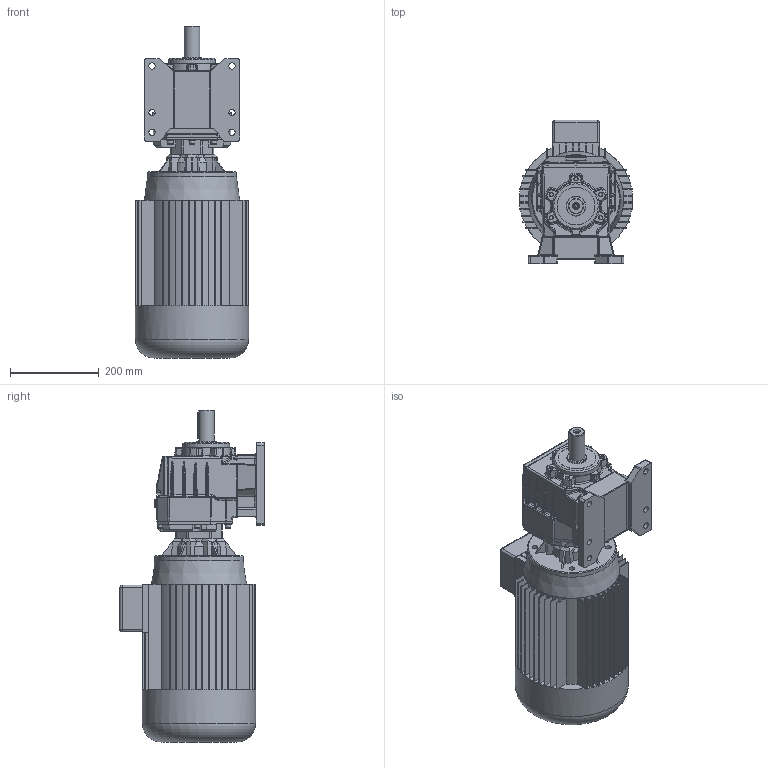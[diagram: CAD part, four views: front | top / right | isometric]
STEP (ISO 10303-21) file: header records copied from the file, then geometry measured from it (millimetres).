
FILE_DESCRIPTION( ( 'Unknown' ), '1' );
FILE_NAME( 'E:/services/configuratordownloads/customers/HYDROMEC/COASSIALI/download/1BB7762E62CD2EEAB3F81F84A4DDE718/STEP/1BB7762E62CD2EEAB3F81F84A4DDE718.3d.stp', 'Unknown', ( 'Unknown' ), ( 'Unknown' ), 'PSStep 10.1', 'Unknown', ' ' );
FILE_SCHEMA( ( 'AUTOMOTIVE_DESIGN { 1 0 10303 214 1 1 1 1 }' ) );
Length unit declared in the file: millimetre
Products named in the file (1): C618800
Bounding box: 254.95 x 324.35 x 747.4 mm (x, y, z)
Volume: 23974192.8 mm3; surface area: 1232052.1 mm2
Topology: 1 solids, 35 shells, 1929 faces, 4790 edges, 2986 vertices
Faces by surface type: plane 1026, cylinder 489, bspline 212, cone 109, torus 55, sphere 26, revolution 8, extrusion 4
Full cylindrical faces by diameter (mm): 4.917 x6, 6 x6, 6.5 x1, 7.175 x6, 8 x1, 8.376 x6, 8.5 x12, 10 x6, 10.106 x4, 10.5 x1, 11.3 x1, 11.445 x2, 12.5 x4, 12.75 x8, 13 x13, 13.5 x1, 14 x6, 18 x1, 19 x1, 20 x1, 22 x1, 35 x1, 38 x1, 40 x1, 43.5 x1, 45 x1, 61 x1, 63 x1, 85 x1, 90 x1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
Entity records: 83481 total; most frequent: CARTESIAN_POINT 24830, ORIENTED_EDGE 9014, DIRECTION 8430, EDGE_CURVE 4507, VERTEX_POINT 2900, AXIS2_PLACEMENT_3D 2892, VECTOR 2638, LINE 2634
